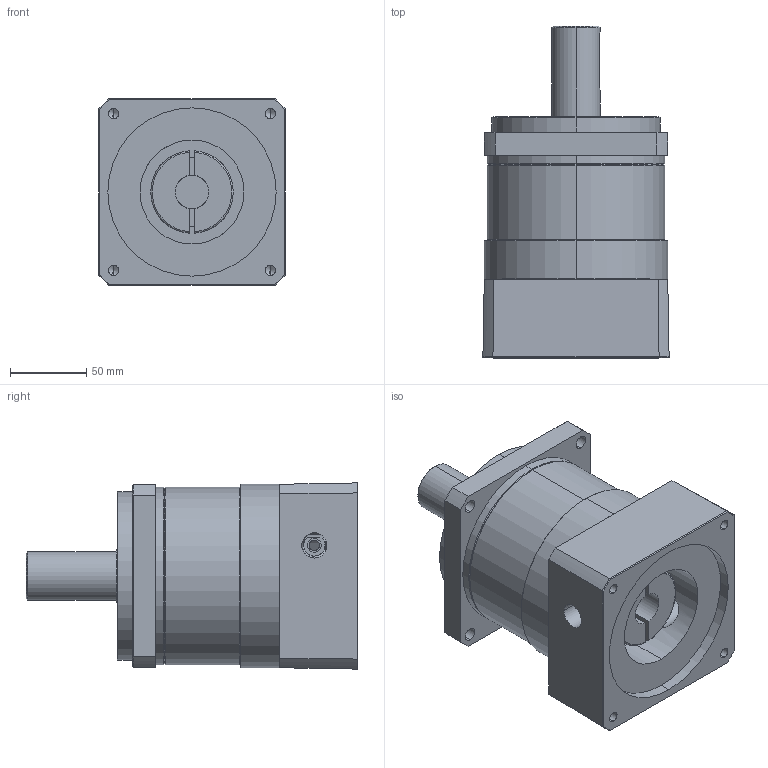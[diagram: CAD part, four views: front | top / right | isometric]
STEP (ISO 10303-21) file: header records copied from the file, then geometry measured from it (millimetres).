
FILE_DESCRIPTION (( 'STEP AP203' ), '1' );
FILE_NAME ('MF120X-L1£r110PCD£r145M8.STEP', '2018-04-17T02:35:22', ( 'KELLY' ), ( '' ), 'SwSTEP 2.0', 'SolidWorks 2012', '' );
FILE_SCHEMA (( 'CONFIG_CONTROL_DESIGN' ));
Length unit declared in the file: millimetre
Products named in the file (1): MF120X-L1｣r110PCD｣r145M8
Bounding box: 121.76 x 217 x 121.76 mm (x, y, z)
Volume: 1735407.1 mm3; surface area: 183579.3 mm2
Topology: 3 solids, 3 shells, 147 faces, 350 edges, 215 vertices
Faces by surface type: cylinder 62, plane 45, cone 36, torus 4
Entity records: 4859 total; most frequent: CARTESIAN_POINT 1355, DIRECTION 742, ORIENTED_EDGE 680, EDGE_CURVE 340, AXIS2_PLACEMENT_3D 300, VERTEX_POINT 215, EDGE_LOOP 183, CIRCLE 152
